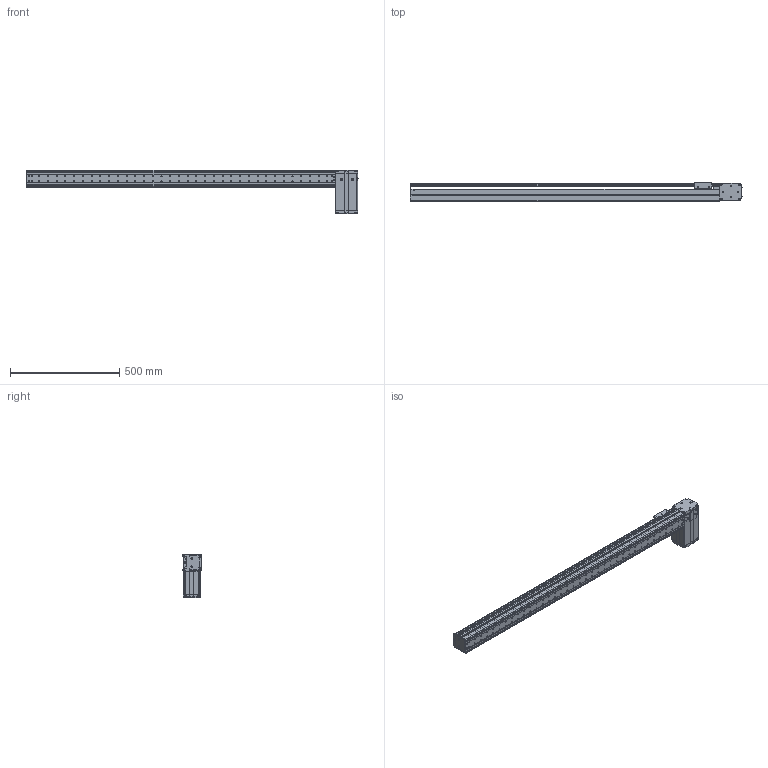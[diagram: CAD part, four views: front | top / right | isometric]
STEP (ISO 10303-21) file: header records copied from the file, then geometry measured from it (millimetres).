
FILE_DESCRIPTION((''),'2;1');
FILE_NAME('BE10_-BL-S_N-C5_IGS_PRT','2017-06-18T',(' '),(''),'PRO/ENGINEER BY PARAMETRIC TECHNOLOGY CORPORATION, 2015030','PRO/ENGINEER BY PARAMETRIC TECHNOLOGY CORPORATION, 2015030','');
FILE_SCHEMA(('CONFIG_CONTROL_DESIGN'));
Products named in the file (1): BE10_-BL-S_N-C5_IGS_PRT
Bounding box: 1520.8 x 85 x 200.22 mm (x, y, z)
Volume: 2112319.6 mm3; surface area: 1438671.8 mm2
Topology: 2 solids, 165 shells, 2193 faces, 6005 edges, 3983 vertices
Faces by surface type: plane 1055, cylinder 979, cone 103, sphere 28, torus 25, bspline 3
Entity records: 71669 total; most frequent: CARTESIAN_POINT 14752, DIRECTION 12069, ORIENTED_EDGE 11346, EDGE_CURVE 5951, AXIS2_PLACEMENT_3D 4353, VERTEX_POINT 3983, VECTOR 3363, LINE 3363
